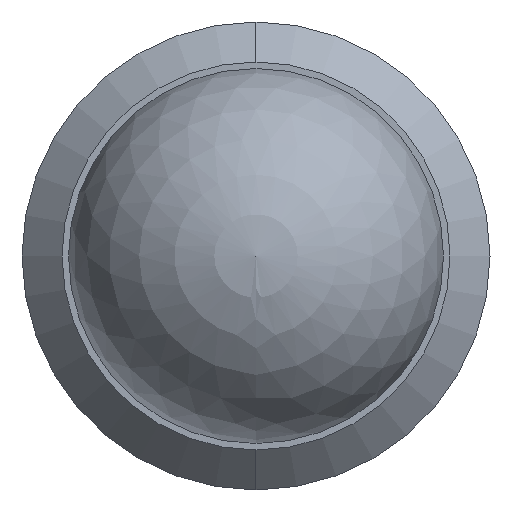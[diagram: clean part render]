
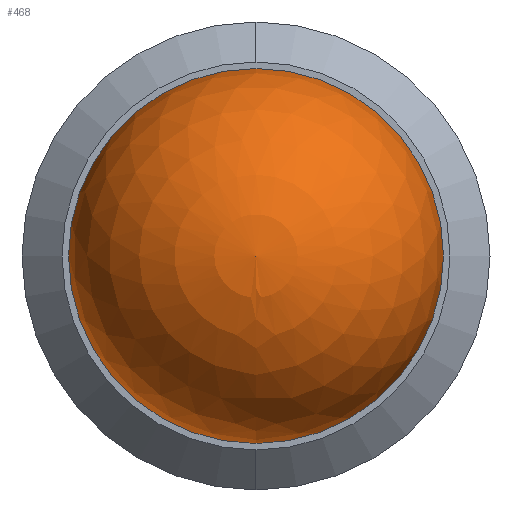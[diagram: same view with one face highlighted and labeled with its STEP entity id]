
A CAD part, left-side view. The second image highlights one B-rep face of the part: STEP entity #468.
In plain terms, the highlighted spherical face has radius 1.191 mm.
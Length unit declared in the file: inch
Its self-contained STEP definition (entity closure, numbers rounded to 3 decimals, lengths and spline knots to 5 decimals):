
#63 = CIRCLE ( 'NONE', #472, 0.04688 ) ;
#80 = EDGE_LOOP ( 'NONE', ( #326, #316 ) ) ;
#93 = CARTESIAN_POINT ( 'NONE',  ( 0., 0.04688, 0. ) ) ;
#207 = EDGE_CURVE ( 'NONE', #582, #345, #63, .T. ) ;
#208 = DIRECTION ( 'NONE',  ( 0., 0., -1. ) ) ;
#215 = CARTESIAN_POINT ( 'NONE',  ( 0., 0., 0. ) ) ;
#230 = DIRECTION ( 'NONE',  ( 1., 0., 0. ) ) ;
#262 = AXIS2_PLACEMENT_3D ( 'NONE', #411, #408, #406 ) ;
#268 = EDGE_CURVE ( 'NONE', #582, #345, #409, .T. ) ;
#316 = ORIENTED_EDGE ( 'NONE', *, *, #268, .T. ) ;
#326 = ORIENTED_EDGE ( 'NONE', *, *, #207, .F. ) ;
#345 = VERTEX_POINT ( 'NONE', #364 ) ;
#364 = CARTESIAN_POINT ( 'NONE',  ( 0., -0.04688, 0. ) ) ;
#406 = DIRECTION ( 'NONE',  ( 0., 0., 1. ) ) ;
#408 = DIRECTION ( 'NONE',  ( -1., 0., 0. ) ) ;
#409 = CIRCLE ( 'NONE', #262, 0.04688 ) ;
#411 = CARTESIAN_POINT ( 'NONE',  ( 0., 0., 0. ) ) ;
#460 = DIRECTION ( 'NONE',  ( 0., 0., -1. ) ) ;
#464 = DIRECTION ( 'NONE',  ( 1., 0., 0. ) ) ;
#465 = CARTESIAN_POINT ( 'NONE',  ( 0., 0., 0. ) ) ;
#468 = ADVANCED_FACE ( 'NONE', ( #566 ), #553, .T. ) ;
#472 = AXIS2_PLACEMENT_3D ( 'NONE', #465, #464, #460 ) ;
#512 = AXIS2_PLACEMENT_3D ( 'NONE', #215, #230, #208 ) ;
#553 = SPHERICAL_SURFACE ( 'NONE', #512, 0.04688 ) ;
#566 = FACE_OUTER_BOUND ( 'NONE', #80, .T. ) ;
#582 = VERTEX_POINT ( 'NONE', #93 ) ;
